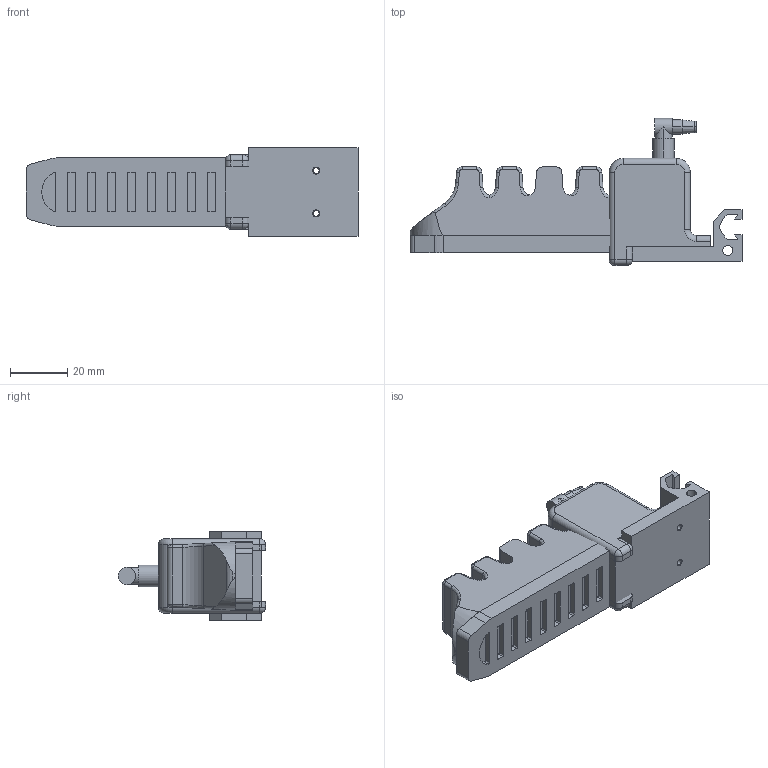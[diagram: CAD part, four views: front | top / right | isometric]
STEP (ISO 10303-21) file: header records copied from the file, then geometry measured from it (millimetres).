
FILE_DESCRIPTION (( 'STEP AP214' ), '1' );
FILE_NAME ('GFM-A5V5.STEP', '2019-12-04T02:51:19', ( '微软用户' ), ( '微软中国' ), 'SwSTEP 2.0', 'SolidWorks 2016', '' );
FILE_SCHEMA (( 'AUTOMOTIVE_DESIGN' ));
Length unit declared in the file: millimetre
Products named in the file (1): GFM-A5V5
Bounding box: 116.2 x 51.5 x 31 mm (x, y, z)
Volume: 70364.4 mm3; surface area: 25862.6 mm2
Topology: 4 solids, 4 shells, 315 faces, 791 edges, 495 vertices
Faces by surface type: cylinder 141, plane 126, bspline 24, cone 14, torus 6, sphere 4
Entity records: 14597 total; most frequent: CARTESIAN_POINT 3652, ORIENTED_EDGE 1582, DIRECTION 1526, EDGE_CURVE 791, AXIS2_PLACEMENT_3D 543, VERTEX_POINT 495, VECTOR 440, LINE 440
